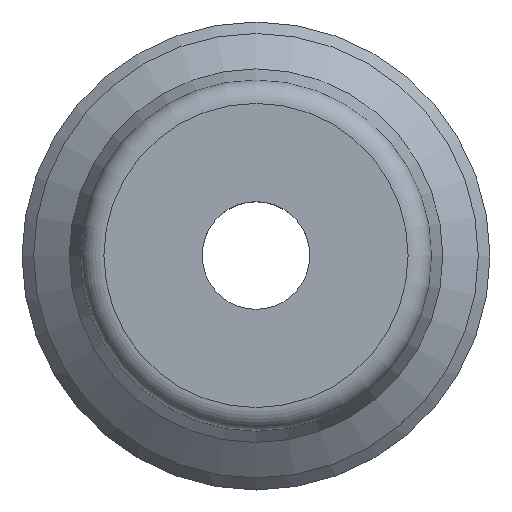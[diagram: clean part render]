
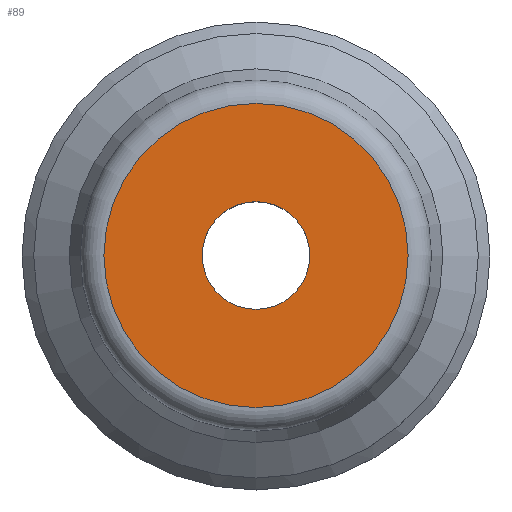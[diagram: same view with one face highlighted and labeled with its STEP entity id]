
A CAD part, top view. The second image highlights one B-rep face of the part: STEP entity #89.
In plain terms, the highlighted planar face has unit normal (0, 0, 1).
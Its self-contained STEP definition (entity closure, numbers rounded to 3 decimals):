
#89=ADVANCED_FACE('',(#137,#138),#139,.T.);
#137=FACE_BOUND('',#194,.T.);
#138=FACE_OUTER_BOUND('',#195,.T.);
#139=PLANE('',#196);
#194=EDGE_LOOP('',(#279));
#195=EDGE_LOOP('',(#280));
#196=AXIS2_PLACEMENT_3D('',#281,#282,#283);
#279=ORIENTED_EDGE('',*,*,#319,.T.);
#280=ORIENTED_EDGE('',*,*,#318,.F.);
#281=CARTESIAN_POINT('',(6.5,0.0,13.0));
#282=DIRECTION('',(0.0,0.,1.0));
#283=DIRECTION('',(0.0,-1.0,0.));
#318=EDGE_CURVE('',#351,#351,#352,.T.);
#319=EDGE_CURVE('',#353,#353,#354,.T.);
#351=VERTEX_POINT('',#389);
#352=CIRCLE('',#390,6.5);
#353=VERTEX_POINT('',#391);
#354=CIRCLE('',#392,2.3);
#389=CARTESIAN_POINT('',(6.5,0.0,13.0));
#390=AXIS2_PLACEMENT_3D('',#441,#442,#443);
#391=CARTESIAN_POINT('',(2.3,0.0,13.0));
#392=AXIS2_PLACEMENT_3D('',#444,#445,#446);
#441=CARTESIAN_POINT('',(0.0,0.0,13.0));
#442=DIRECTION('',(0.0,0.,-1.0));
#443=DIRECTION('',(0.0,1.0,0.));
#444=CARTESIAN_POINT('',(0.0,0.0,13.0));
#445=DIRECTION('',(0.0,0.,-1.0));
#446=DIRECTION('',(0.0,1.0,0.));
